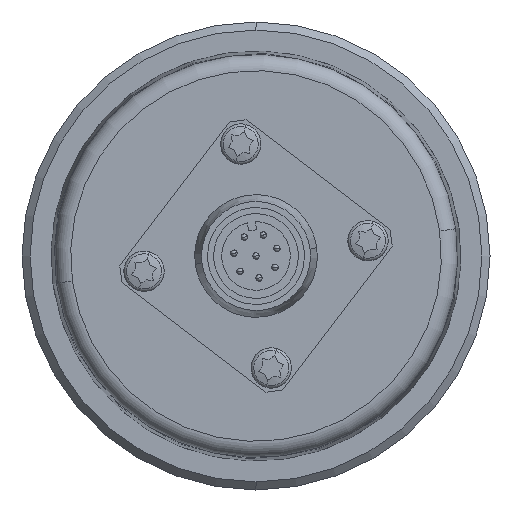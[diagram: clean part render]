
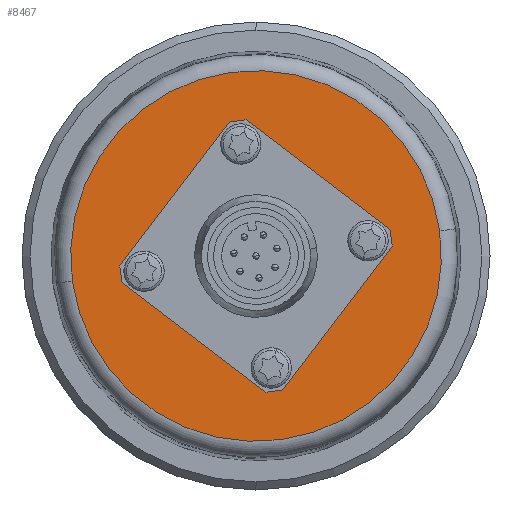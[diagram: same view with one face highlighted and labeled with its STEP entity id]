
A CAD part, left-side view. The second image highlights one B-rep face of the part: STEP entity #8467.
In plain terms, the highlighted planar face has unit normal (-1, 0, 0).
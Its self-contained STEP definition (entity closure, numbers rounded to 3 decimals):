
#5255 = CARTESIAN_POINT ( 'NONE',  ( -21., 22.761, -3.107 ) ) ;
#7428 = VERTEX_POINT ( 'NONE', #14492 ) ;
#7433 = EDGE_CURVE ( 'NONE', #7435, #7428, #14532, .T. ) ;
#7435 = VERTEX_POINT ( 'NONE', #14523 ) ;
#7449 = VERTEX_POINT ( 'NONE', #14611 ) ;
#7453 = EDGE_CURVE ( 'NONE', #7455, #7449, #14609, .T. ) ;
#7455 = VERTEX_POINT ( 'NONE', #14644 ) ;
#7477 = VERTEX_POINT ( 'NONE', #14695 ) ;
#7482 = EDGE_CURVE ( 'NONE', #7483, #7477, #14694, .T. ) ;
#7483 = VERTEX_POINT ( 'NONE', #14689 ) ;
#7487 = EDGE_CURVE ( 'NONE', #7489, #11159, #14688, .T. ) ;
#7489 = VERTEX_POINT ( 'NONE', #14734 ) ;
#7501 = VERTEX_POINT ( 'NONE', #14766 ) ;
#7505 = EDGE_CURVE ( 'NONE', #7506, #7501, #14761, .T. ) ;
#7506 = VERTEX_POINT ( 'NONE', #14756 ) ;
#7887 = VERTEX_POINT ( 'NONE', #16158 ) ;
#7964 = VERTEX_POINT ( 'NONE', #16432 ) ;
#7967 = EDGE_CURVE ( 'NONE', #7964, #7887, #16431, .T. ) ;
#8450 = ORIENTED_EDGE ( 'NONE', *, *, #8452, .T. ) ;
#8452 = EDGE_CURVE ( 'NONE', #11159, #7489, #18109, .T. ) ;
#8455 = ORIENTED_EDGE ( 'NONE', *, *, #7487, .T. ) ;
#8456 = EDGE_LOOP ( 'NONE', ( #8459, #8563 ) ) ;
#8459 = ORIENTED_EDGE ( 'NONE', *, *, #8561, .F. ) ;
#8467 = ADVANCED_FACE ( 'NONE', ( #18133, #18132, #18131, #18130, #18129, #18128 ), #18173, .F. ) ;
#8468 = EDGE_LOOP ( 'NONE', ( #8471, #8474 ) ) ;
#8471 = ORIENTED_EDGE ( 'NONE', *, *, #7505, .T. ) ;
#8474 = ORIENTED_EDGE ( 'NONE', *, *, #8475, .T. ) ;
#8475 = EDGE_CURVE ( 'NONE', #7501, #7506, #18201, .T. ) ;
#8477 = EDGE_LOOP ( 'NONE', ( #8480, #8482 ) ) ;
#8480 = ORIENTED_EDGE ( 'NONE', *, *, #7453, .T. ) ;
#8482 = ORIENTED_EDGE ( 'NONE', *, *, #8484, .T. ) ;
#8484 = EDGE_CURVE ( 'NONE', #7449, #7455, #18184, .T. ) ;
#8486 = EDGE_LOOP ( 'NONE', ( #8489, #8513 ) ) ;
#8489 = ORIENTED_EDGE ( 'NONE', *, *, #7482, .T. ) ;
#8513 = ORIENTED_EDGE ( 'NONE', *, *, #8515, .T. ) ;
#8515 = EDGE_CURVE ( 'NONE', #7477, #7483, #18315, .T. ) ;
#8517 = EDGE_LOOP ( 'NONE', ( #8519, #8521 ) ) ;
#8519 = ORIENTED_EDGE ( 'NONE', *, *, #7433, .T. ) ;
#8521 = ORIENTED_EDGE ( 'NONE', *, *, #8524, .T. ) ;
#8524 = EDGE_CURVE ( 'NONE', #7428, #7435, #18346, .T. ) ;
#8525 = EDGE_LOOP ( 'NONE', ( #8450, #8455 ) ) ;
#8561 = EDGE_CURVE ( 'NONE', #7887, #7964, #18427, .T. ) ;
#8563 = ORIENTED_EDGE ( 'NONE', *, *, #7967, .F. ) ;
#11159 = VERTEX_POINT ( 'NONE', #5255 ) ;
#14492 = CARTESIAN_POINT ( 'NONE',  ( -21., -12.496, 1.706 ) ) ;
#14523 = CARTESIAN_POINT ( 'NONE',  ( -21., -15.248, 2.081 ) ) ;
#14524 = DIRECTION ( 'NONE',  ( 0., 0.991, -0.135 ) ) ;
#14525 = DIRECTION ( 'NONE',  ( 1., 0., 0. ) ) ;
#14526 = CARTESIAN_POINT ( 'NONE',  ( -21., -13.872, 1.894 ) ) ;
#14527 = AXIS2_PLACEMENT_3D ( 'NONE', #14526, #14525, #14524 ) ;
#14532 = CIRCLE ( 'NONE', #14527, 1.389 ) ;
#14605 = DIRECTION ( 'NONE',  ( 0., 0.991, -0.135 ) ) ;
#14606 = DIRECTION ( 'NONE',  ( 1., 0., 0. ) ) ;
#14607 = CARTESIAN_POINT ( 'NONE',  ( -21., -1.894, -13.872 ) ) ;
#14608 = AXIS2_PLACEMENT_3D ( 'NONE', #14607, #14606, #14605 ) ;
#14609 = CIRCLE ( 'NONE', #14608, 1.389 ) ;
#14611 = CARTESIAN_POINT ( 'NONE',  ( -21., -0.518, -14.06 ) ) ;
#14644 = CARTESIAN_POINT ( 'NONE',  ( -21., -3.269, -13.684 ) ) ;
#14686 = CARTESIAN_POINT ( 'NONE',  ( -21., 0., 0. ) ) ;
#14687 = AXIS2_PLACEMENT_3D ( 'NONE', #14686, #14736, #14735 ) ;
#14688 = CIRCLE ( 'NONE', #14687, 22.972 ) ;
#14689 = CARTESIAN_POINT ( 'NONE',  ( -21., 0.518, 14.06 ) ) ;
#14690 = DIRECTION ( 'NONE',  ( 0., 0.991, -0.135 ) ) ;
#14691 = DIRECTION ( 'NONE',  ( 1., 0., 0. ) ) ;
#14692 = CARTESIAN_POINT ( 'NONE',  ( -21., 1.894, 13.872 ) ) ;
#14693 = AXIS2_PLACEMENT_3D ( 'NONE', #14692, #14691, #14690 ) ;
#14694 = CIRCLE ( 'NONE', #14693, 1.389 ) ;
#14695 = CARTESIAN_POINT ( 'NONE',  ( -21., 3.269, 13.684 ) ) ;
#14734 = CARTESIAN_POINT ( 'NONE',  ( -21., -22.761, 3.107 ) ) ;
#14735 = DIRECTION ( 'NONE',  ( 0., 0.991, -0.135 ) ) ;
#14736 = DIRECTION ( 'NONE',  ( -1., 0., 0. ) ) ;
#14756 = CARTESIAN_POINT ( 'NONE',  ( -21., 12.496, -1.706 ) ) ;
#14757 = DIRECTION ( 'NONE',  ( 0., 0.991, -0.135 ) ) ;
#14758 = DIRECTION ( 'NONE',  ( 1., 0., 0. ) ) ;
#14759 = CARTESIAN_POINT ( 'NONE',  ( -21., 13.872, -1.894 ) ) ;
#14760 = AXIS2_PLACEMENT_3D ( 'NONE', #14759, #14758, #14757 ) ;
#14761 = CIRCLE ( 'NONE', #14760, 1.389 ) ;
#14766 = CARTESIAN_POINT ( 'NONE',  ( -21., 15.248, -2.081 ) ) ;
#16158 = CARTESIAN_POINT ( 'NONE',  ( -21., -11.394, 1.555 ) ) ;
#16427 = DIRECTION ( 'NONE',  ( 0., -0.991, 0.135 ) ) ;
#16428 = DIRECTION ( 'NONE',  ( -1., 0., 0. ) ) ;
#16429 = CARTESIAN_POINT ( 'NONE',  ( -21., 0., 0. ) ) ;
#16430 = AXIS2_PLACEMENT_3D ( 'NONE', #16429, #16428, #16427 ) ;
#16431 = CIRCLE ( 'NONE', #16430, 11.5 ) ;
#16432 = CARTESIAN_POINT ( 'NONE',  ( -21., 11.394, -1.555 ) ) ;
#18106 = DIRECTION ( 'NONE',  ( 0., 0.991, -0.135 ) ) ;
#18107 = DIRECTION ( 'NONE',  ( -1., 0., 0. ) ) ;
#18108 = AXIS2_PLACEMENT_3D ( 'NONE', #18114, #18107, #18106 ) ;
#18109 = CIRCLE ( 'NONE', #18108, 22.972 ) ;
#18114 = CARTESIAN_POINT ( 'NONE',  ( -21., 0., 0. ) ) ;
#18128 = FACE_BOUND ( 'NONE', #8456, .T. ) ;
#18129 = FACE_OUTER_BOUND ( 'NONE', #8525, .T. ) ;
#18130 = FACE_BOUND ( 'NONE', #8517, .T. ) ;
#18131 = FACE_BOUND ( 'NONE', #8486, .T. ) ;
#18132 = FACE_BOUND ( 'NONE', #8477, .T. ) ;
#18133 = FACE_BOUND ( 'NONE', #8468, .T. ) ;
#18168 = DIRECTION ( 'NONE',  ( 0., 0.991, -0.135 ) ) ;
#18169 = DIRECTION ( 'NONE',  ( 1., 0., 0. ) ) ;
#18170 = CARTESIAN_POINT ( 'NONE',  ( -21., 0., 0. ) ) ;
#18171 = AXIS2_PLACEMENT_3D ( 'NONE', #18170, #18169, #18168 ) ;
#18173 = PLANE ( 'NONE',  #18171 ) ;
#18180 = DIRECTION ( 'NONE',  ( 0., 0.991, -0.135 ) ) ;
#18181 = DIRECTION ( 'NONE',  ( 1., 0., 0. ) ) ;
#18182 = CARTESIAN_POINT ( 'NONE',  ( -21., -1.894, -13.872 ) ) ;
#18183 = AXIS2_PLACEMENT_3D ( 'NONE', #18182, #18181, #18180 ) ;
#18184 = CIRCLE ( 'NONE', #18183, 1.389 ) ;
#18193 = DIRECTION ( 'NONE',  ( 0., 0.991, -0.135 ) ) ;
#18194 = DIRECTION ( 'NONE',  ( 1., 0., 0. ) ) ;
#18195 = CARTESIAN_POINT ( 'NONE',  ( -21., 13.872, -1.894 ) ) ;
#18196 = AXIS2_PLACEMENT_3D ( 'NONE', #18195, #18194, #18193 ) ;
#18201 = CIRCLE ( 'NONE', #18196, 1.389 ) ;
#18311 = DIRECTION ( 'NONE',  ( 0., 0.991, -0.135 ) ) ;
#18312 = DIRECTION ( 'NONE',  ( 1., 0., 0. ) ) ;
#18313 = CARTESIAN_POINT ( 'NONE',  ( -21., 1.894, 13.872 ) ) ;
#18314 = AXIS2_PLACEMENT_3D ( 'NONE', #18313, #18312, #18311 ) ;
#18315 = CIRCLE ( 'NONE', #18314, 1.389 ) ;
#18338 = DIRECTION ( 'NONE',  ( 0., 0.991, -0.135 ) ) ;
#18339 = DIRECTION ( 'NONE',  ( 1., 0., 0. ) ) ;
#18340 = CARTESIAN_POINT ( 'NONE',  ( -21., -13.872, 1.894 ) ) ;
#18341 = AXIS2_PLACEMENT_3D ( 'NONE', #18340, #18339, #18338 ) ;
#18346 = CIRCLE ( 'NONE', #18341, 1.389 ) ;
#18423 = DIRECTION ( 'NONE',  ( 0., -0.991, 0.135 ) ) ;
#18424 = DIRECTION ( 'NONE',  ( -1., 0., 0. ) ) ;
#18425 = CARTESIAN_POINT ( 'NONE',  ( -21., 0., 0. ) ) ;
#18426 = AXIS2_PLACEMENT_3D ( 'NONE', #18425, #18424, #18423 ) ;
#18427 = CIRCLE ( 'NONE', #18426, 11.5 ) ;
